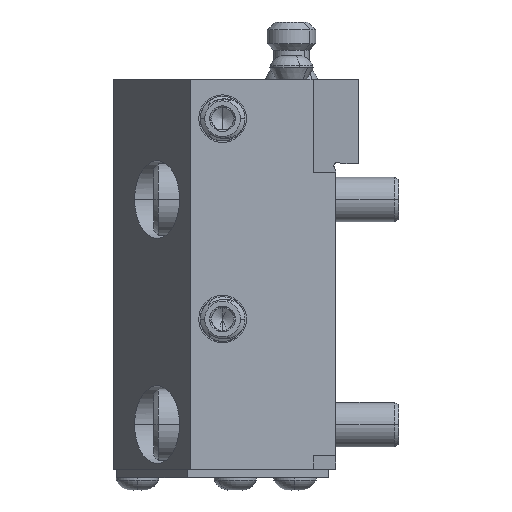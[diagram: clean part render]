
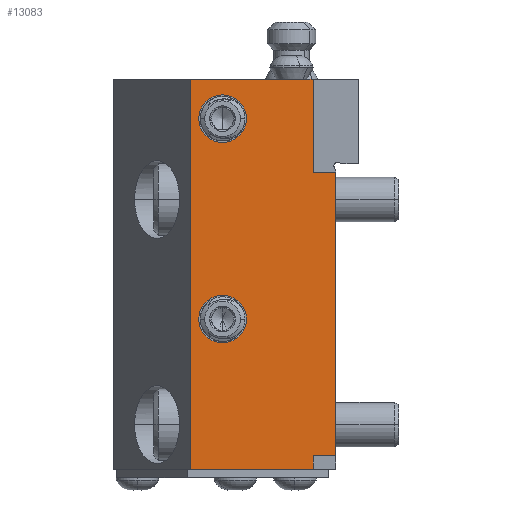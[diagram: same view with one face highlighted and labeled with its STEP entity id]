
A CAD part, left-side view. The second image highlights one B-rep face of the part: STEP entity #13083.
In plain terms, the highlighted planar face has unit normal (-1, 0, 0).
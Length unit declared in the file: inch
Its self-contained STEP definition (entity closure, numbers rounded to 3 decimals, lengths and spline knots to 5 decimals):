
#100 = CIRCLE ( 'NONE', #7904, 0.2105 ) ;
#110 = EDGE_LOOP ( 'NONE', ( #11352, #18339 ) ) ;
#113 = ORIENTED_EDGE ( 'NONE', *, *, #3209, .T. ) ;
#162 = DIRECTION ( 'NONE',  ( 0., 0., -1. ) ) ;
#320 = DIRECTION ( 'NONE',  ( 1., 0., 0. ) ) ;
#433 = EDGE_LOOP ( 'NONE', ( #17920, #18488 ) ) ;
#773 = ORIENTED_EDGE ( 'NONE', *, *, #16773, .T. ) ;
#838 = VERTEX_POINT ( 'NONE', #3243 ) ;
#1156 = VERTEX_POINT ( 'NONE', #14961 ) ;
#1890 = EDGE_CURVE ( 'NONE', #17856, #3128, #11155, .T. ) ;
#1930 = CARTESIAN_POINT ( 'NONE',  ( -1.77165, -1.2, 2.625 ) ) ;
#1948 = LINE ( 'NONE', #13528, #11643 ) ;
#2290 = CARTESIAN_POINT ( 'NONE',  ( -1.77165, 0., 2.8895 ) ) ;
#2470 = ORIENTED_EDGE ( 'NONE', *, *, #12749, .T. ) ;
#2588 = LINE ( 'NONE', #8330, #5149 ) ;
#2672 = CARTESIAN_POINT ( 'NONE',  ( -1.77165, 0., 1.53885 ) ) ;
#3128 = VERTEX_POINT ( 'NONE', #9015 ) ;
#3161 = CARTESIAN_POINT ( 'NONE',  ( -1.77165, -1., 0. ) ) ;
#3209 = EDGE_CURVE ( 'NONE', #15410, #1156, #15105, .T. ) ;
#3230 = CARTESIAN_POINT ( 'NONE',  ( -1.77165, -0.79972, 3.45 ) ) ;
#3243 = CARTESIAN_POINT ( 'NONE',  ( -1.77165, 0.28344, 3.45 ) ) ;
#3283 = CARTESIAN_POINT ( 'NONE',  ( -1.77165, 0., 3.3105 ) ) ;
#3328 = EDGE_LOOP ( 'NONE', ( #17874, #14511, #773, #15720, #113, #2470, #6397, #3636 ) ) ;
#3408 = DIRECTION ( 'NONE',  ( 0., 0., -1. ) ) ;
#3593 = DIRECTION ( 'NONE',  ( 0., 0., 1. ) ) ;
#3636 = ORIENTED_EDGE ( 'NONE', *, *, #14753, .T. ) ;
#3767 = LINE ( 'NONE', #9511, #9251 ) ;
#3977 = CARTESIAN_POINT ( 'NONE',  ( -1.77165, 0., 3.1 ) ) ;
#4002 = DIRECTION ( 'NONE',  ( 0., 0., -1. ) ) ;
#4083 = VECTOR ( 'NONE', #3593, 39.37008 ) ;
#4426 = EDGE_CURVE ( 'NONE', #10410, #12057, #9395, .T. ) ;
#4477 = CARTESIAN_POINT ( 'NONE',  ( -1.77165, 0.28344, 3.45 ) ) ;
#4571 = AXIS2_PLACEMENT_3D ( 'NONE', #11150, #16878, #4002 ) ;
#4778 = DIRECTION ( 'NONE',  ( 0., 0., 1. ) ) ;
#4999 = VERTEX_POINT ( 'NONE', #3230 ) ;
#5149 = VECTOR ( 'NONE', #9552, 39.37008 ) ;
#5266 = VECTOR ( 'NONE', #4778, 39.37008 ) ;
#5303 = DIRECTION ( 'NONE',  ( 0., 0., -1. ) ) ;
#5306 = VERTEX_POINT ( 'NONE', #17091 ) ;
#5901 = AXIS2_PLACEMENT_3D ( 'NONE', #11667, #16002, #14587 ) ;
#5958 = CARTESIAN_POINT ( 'NONE',  ( -1.77165, 0., 1.32835 ) ) ;
#6293 = CARTESIAN_POINT ( 'NONE',  ( -1.77165, -1., 0.12 ) ) ;
#6397 = ORIENTED_EDGE ( 'NONE', *, *, #15894, .T. ) ;
#6637 = VECTOR ( 'NONE', #12181, 39.37008 ) ;
#6695 = CARTESIAN_POINT ( 'NONE',  ( -1.77165, -0.79972, 2.625 ) ) ;
#7548 = PLANE ( 'NONE',  #5901 ) ;
#7746 = DIRECTION ( 'NONE',  ( 0., 0., -1. ) ) ;
#7904 = AXIS2_PLACEMENT_3D ( 'NONE', #3977, #16677, #5303 ) ;
#7910 = CARTESIAN_POINT ( 'NONE',  ( -1.77165, -0.79972, 0.12 ) ) ;
#7917 = VECTOR ( 'NONE', #13713, 39.37008 ) ;
#8300 = EDGE_CURVE ( 'NONE', #12057, #5306, #1948, .T. ) ;
#8330 = CARTESIAN_POINT ( 'NONE',  ( -1.77165, -1.2, 3.45 ) ) ;
#8382 = CARTESIAN_POINT ( 'NONE',  ( -1.77165, -1., 2.625 ) ) ;
#9015 = CARTESIAN_POINT ( 'NONE',  ( -1.77165, 0., 1.11785 ) ) ;
#9139 = VECTOR ( 'NONE', #162, 39.37008 ) ;
#9201 = AXIS2_PLACEMENT_3D ( 'NONE', #10563, #320, #3408 ) ;
#9251 = VECTOR ( 'NONE', #15253, 39.37008 ) ;
#9289 = CARTESIAN_POINT ( 'NONE',  ( -1.77165, -0.79972, 0. ) ) ;
#9395 = LINE ( 'NONE', #17829, #7917 ) ;
#9511 = CARTESIAN_POINT ( 'NONE',  ( -1.77165, -0.79972, 0.12 ) ) ;
#9552 = DIRECTION ( 'NONE',  ( 0., 1., 0. ) ) ;
#10350 = FACE_BOUND ( 'NONE', #433, .T. ) ;
#10410 = VERTEX_POINT ( 'NONE', #7910 ) ;
#10563 = CARTESIAN_POINT ( 'NONE',  ( -1.77165, 0., 3.1 ) ) ;
#11150 = CARTESIAN_POINT ( 'NONE',  ( -1.77165, 0., 1.32835 ) ) ;
#11155 = CIRCLE ( 'NONE', #4571, 0.2105 ) ;
#11352 = ORIENTED_EDGE ( 'NONE', *, *, #13801, .T. ) ;
#11513 = CIRCLE ( 'NONE', #15726, 0.2105 ) ;
#11643 = VECTOR ( 'NONE', #17633, 39.37008 ) ;
#11667 = CARTESIAN_POINT ( 'NONE',  ( -1.77165, -1.2, 3.45 ) ) ;
#11938 = EDGE_CURVE ( 'NONE', #12330, #15410, #17254, .T. ) ;
#12057 = VERTEX_POINT ( 'NONE', #9289 ) ;
#12154 = DIRECTION ( 'NONE',  ( 1., 0., 0. ) ) ;
#12181 = DIRECTION ( 'NONE',  ( 0., 1., 0. ) ) ;
#12330 = VERTEX_POINT ( 'NONE', #6293 ) ;
#12596 = EDGE_CURVE ( 'NONE', #17256, #16979, #13690, .T. ) ;
#12749 = EDGE_CURVE ( 'NONE', #1156, #4999, #16746, .T. ) ;
#13083 = ADVANCED_FACE ( 'NONE', ( #10350, #14682, #13366 ), #7548, .T. ) ;
#13366 = FACE_OUTER_BOUND ( 'NONE', #3328, .T. ) ;
#13528 = CARTESIAN_POINT ( 'NONE',  ( -1.77165, -1.2, 0. ) ) ;
#13690 = CIRCLE ( 'NONE', #9201, 0.2105 ) ;
#13713 = DIRECTION ( 'NONE',  ( 0., 0., -1. ) ) ;
#13801 = EDGE_CURVE ( 'NONE', #16979, #17256, #100, .T. ) ;
#14511 = ORIENTED_EDGE ( 'NONE', *, *, #4426, .F. ) ;
#14587 = DIRECTION ( 'NONE',  ( 0., -1., 0. ) ) ;
#14682 = FACE_BOUND ( 'NONE', #110, .T. ) ;
#14753 = EDGE_CURVE ( 'NONE', #838, #5306, #16137, .T. ) ;
#14961 = CARTESIAN_POINT ( 'NONE',  ( -1.77165, -0.79972, 2.625 ) ) ;
#15105 = LINE ( 'NONE', #1930, #6637 ) ;
#15240 = EDGE_CURVE ( 'NONE', #3128, #17856, #11513, .T. ) ;
#15253 = DIRECTION ( 'NONE',  ( 0., -1., 0. ) ) ;
#15410 = VERTEX_POINT ( 'NONE', #8382 ) ;
#15720 = ORIENTED_EDGE ( 'NONE', *, *, #11938, .T. ) ;
#15726 = AXIS2_PLACEMENT_3D ( 'NONE', #5958, #12154, #7746 ) ;
#15894 = EDGE_CURVE ( 'NONE', #4999, #838, #2588, .T. ) ;
#16002 = DIRECTION ( 'NONE',  ( -1., 0., 0. ) ) ;
#16137 = LINE ( 'NONE', #4477, #9139 ) ;
#16677 = DIRECTION ( 'NONE',  ( 1., 0., 0. ) ) ;
#16746 = LINE ( 'NONE', #6695, #4083 ) ;
#16773 = EDGE_CURVE ( 'NONE', #10410, #12330, #3767, .T. ) ;
#16878 = DIRECTION ( 'NONE',  ( 1., 0., 0. ) ) ;
#16979 = VERTEX_POINT ( 'NONE', #3283 ) ;
#17091 = CARTESIAN_POINT ( 'NONE',  ( -1.77165, 0.28344, 0. ) ) ;
#17254 = LINE ( 'NONE', #3161, #5266 ) ;
#17256 = VERTEX_POINT ( 'NONE', #2290 ) ;
#17633 = DIRECTION ( 'NONE',  ( 0., 1., 0. ) ) ;
#17829 = CARTESIAN_POINT ( 'NONE',  ( -1.77165, -0.79972, 0.12 ) ) ;
#17856 = VERTEX_POINT ( 'NONE', #2672 ) ;
#17874 = ORIENTED_EDGE ( 'NONE', *, *, #8300, .F. ) ;
#17920 = ORIENTED_EDGE ( 'NONE', *, *, #1890, .T. ) ;
#18339 = ORIENTED_EDGE ( 'NONE', *, *, #12596, .T. ) ;
#18488 = ORIENTED_EDGE ( 'NONE', *, *, #15240, .T. ) ;
